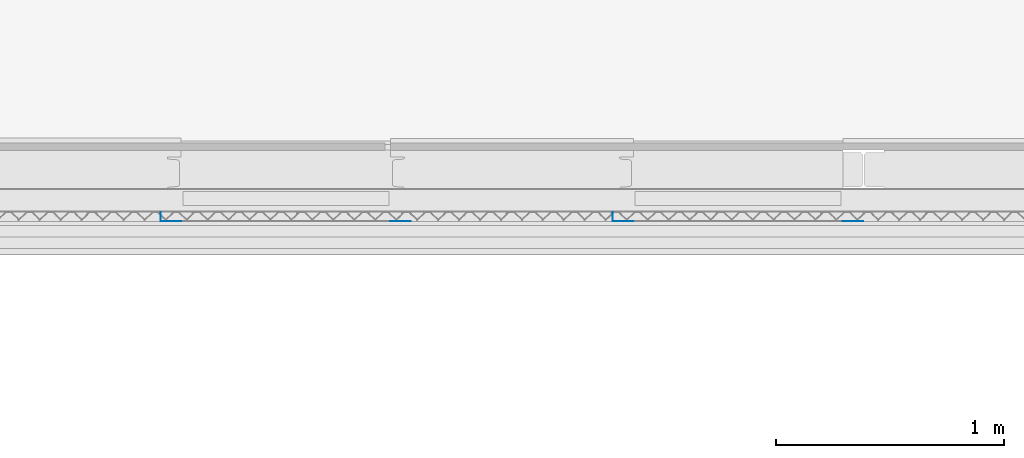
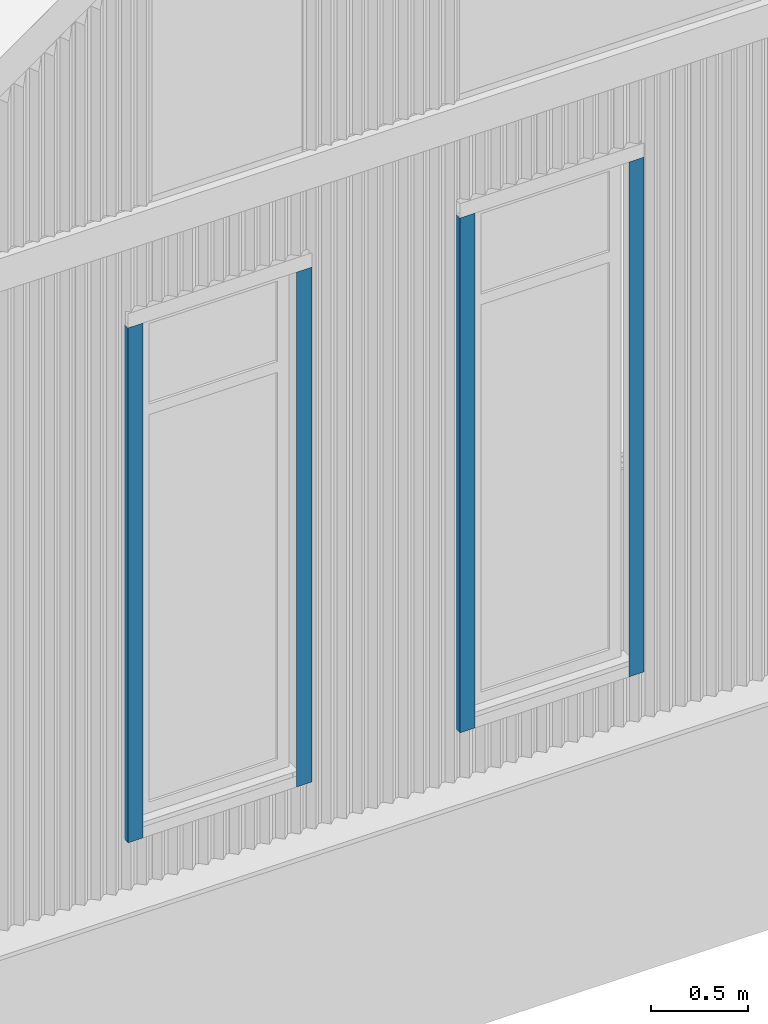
# One storey, part 32 of 338: 4 columns.
"""IFC2X3 building model written with IfcOpenShell, lengths in millimetres."""

from ifc_helpers import new_model, entity, si_unit, converted_unit, derived_unit, money_unit, direction, frame, origin_with_axes, place, context, subcontext, project, spatial, faceted_brep, material, type_object, element, save


model = new_model("IFC2X3")

# Units and contexts
model_context = context("Model", 3, precision=0.01, world=origin_with_axes(), true_north=direction((0.0, 1.0)))
plan_context = context("Plan", 3, precision=0.01, world=origin_with_axes(), true_north=direction((0.0, 1.0)))
body_context = subcontext(model_context, "Body", "Model", "MODEL_VIEW")
ifc_project = project(units=[si_unit("LENGTHUNIT", "METRE", prefix="MILLI"), si_unit("AREAUNIT", "SQUARE_METRE"), si_unit("VOLUMEUNIT", "CUBIC_METRE"), converted_unit("PLANEANGLEUNIT", "DEGREE", entity("IfcPlaneAngleMeasure", 0.0174532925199), si_unit("PLANEANGLEUNIT", "RADIAN"), dimensions=[0, 0, 0, 0, 0, 0, 0]), money_unit("EUR"), converted_unit("TIMEUNIT", "Year", entity("IfcTimeMeasure", 31556926.0), si_unit("TIMEUNIT", "SECOND"), dimensions=[0, 0, 1, 0, 0, 0, 0]), si_unit("MASSUNIT", "GRAM", prefix="KILO"), si_unit("THERMODYNAMICTEMPERATUREUNIT", "DEGREE_CELSIUS"), si_unit("LUMINOUSINTENSITYUNIT", "LUMEN"), si_unit("ENERGYUNIT", "JOULE", prefix="MEGA"), derived_unit("THERMALCONDUCTANCEUNIT", [(si_unit("POWERUNIT", "WATT"), 1), (si_unit("LENGTHUNIT", "METRE"), -1), (si_unit("THERMODYNAMICTEMPERATUREUNIT", "KELVIN"), -1)]), derived_unit("SPECIFICHEATCAPACITYUNIT", [(si_unit("ENERGYUNIT", "JOULE"), 1), (si_unit("MASSUNIT", "GRAM", prefix="KILO"), -1), (si_unit("THERMODYNAMICTEMPERATUREUNIT", "KELVIN"), -1)]), derived_unit("MASSDENSITYUNIT", [(si_unit("MASSUNIT", "GRAM", prefix="KILO"), 1), (si_unit("VOLUMEUNIT", "CUBIC_METRE"), -1)])], contexts=[model_context, plan_context])

# Site, building, storey
site_placement = place(None, origin_with_axes())
site = spatial("IfcSite", under=ifc_project, at=site_placement, Name="Fortuinstraat Woensdrecht", CompositionType="ELEMENT")
building_placement = place(site_placement, origin_with_axes())
building = spatial("IfcBuilding", under=site, at=building_placement, Name="IKC Fortuna", CompositionType="ELEMENT")
storey_placement = place(building_placement, origin_with_axes())
storey = spatial("IfcBuildingStorey", under=building, at=storey_placement, Name="00 begane grond", CompositionType="ELEMENT", Elevation=0.0)

# Columns
ifc_material = material(Name="Metaal - Aluminium")
column_type = type_object("IfcColumnType", Name="41 Zetwerk SW 115 x 74", PredefinedType="COLUMN")
column_1_placement = place(storey_placement, frame((47018.4270571, 20910.2966282, 1310.63097708), z_axis=(0.0, 0.0, 1.0), x_axis=(1.0, 0.0, 0.0)))
element("IfcColumn", 1, at=column_1_placement, inside=storey, type_object=column_type, material=ifc_material, Name="28_Kolom_omtimmering kolom", ObjectType="COLUMN", context=body_context, shape_type="Brep", body=[
    faceted_brep([(115.0, -56.0, 0.0), (115.0, -55.955706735, 0.0), (115.0, -55.955706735, 3254.36978966), (115.0, -56.0, 3254.36978966), (25.0, -56.0, 0.0), (25.0, -55.955706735, 0.0), (25.0, -55.955706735, 3254.36978966), (25.0, -56.0, 3254.36978966)], [[[0, 1, 2, 3]], [[4, 5, 1, 0]], [[5, 6, 2, 1]], [[3, 2, 6, 7]], [[3, 7, 4, 0]], [[7, 6, 5, 4]]]),
])
column_2_placement = place(storey_placement, frame((46148.4270571, 20910.2966282, 1310.63097708), z_axis=(0.0, 0.0, 1.0), x_axis=(1.0, 0.0, 0.0)))
element("IfcColumn", 2, at=column_2_placement, inside=storey, type_object=column_type, material=ifc_material, Name="28_Kolom_omtimmering kolom", ObjectType="COLUMN", context=body_context, shape_type="Brep", body=[
    faceted_brep([(-25.0, -56.0, 0.0), (-25.0, -55.9557067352, 0.0), (-25.0, -55.9557067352, 3254.36978966), (-25.0, -56.0, 3254.36978966), (-114.669633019, -15.0, 0.0), (-114.669633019, -55.9557067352, 0.0), (-115.0, -56.0, 0.0), (-115.0, -15.0, 0.0), (-114.669633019, -55.9557067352, 3254.36978966), (-114.669633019, -15.0, 3254.36978966), (-115.0, -15.0, 3254.36978966), (-115.0, -56.0, 3254.36978966)], [[[0, 1, 2, 3]], [[4, 5, 1, 0, 6, 7]], [[5, 8, 2, 1]], [[2, 8, 9, 10, 11, 3]], [[3, 11, 6, 0]], [[5, 4, 9, 8]], [[11, 10, 7, 6]], [[10, 9, 4, 7]]]),
])
column_3_placement = place(storey_placement, frame((45032.4270571, 20910.2966282, 1310.63097708), z_axis=(0.0, 0.0, 1.0), x_axis=(1.0, 0.0, 0.0)))
element("IfcColumn", 3, at=column_3_placement, inside=storey, type_object=column_type, material=ifc_material, Name="28_Kolom_omtimmering kolom", ObjectType="COLUMN", context=body_context, shape_type="Brep", body=[
    faceted_brep([(115.0, -56.0, 0.0), (115.0, -55.955706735, -0.00729491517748), (115.0, -55.955706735, 3254.36978966), (115.0, -56.0, 3254.36978966), (25.0, -56.0, 0.0), (25.0, -55.955706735, -0.00729491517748), (25.0, -55.955706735, 3254.36978966), (25.0, -56.0, 3254.36978966)], [[[0, 1, 2, 3]], [[4, 5, 1, 0]], [[5, 6, 2, 1]], [[3, 2, 6, 7]], [[3, 7, 4, 0]], [[7, 6, 5, 4]]]),
])
column_4_placement = place(storey_placement, frame((44163.4613816, 20910.2966282, 1310.63097708), z_axis=(0.0, 0.0, 1.0), x_axis=(1.0, 0.0, 0.0)))
element("IfcColumn", 4, at=column_4_placement, inside=storey, type_object=column_type, material=ifc_material, Name="28_Kolom_omtimmering kolom", ObjectType="COLUMN", context=body_context, shape_type="Brep", body=[
    faceted_brep([(-25.0, -56.0, 0.0), (-25.0, -55.955706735, -0.00729491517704), (-25.0, -55.955706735, 3254.36978966), (-25.0, -56.0, 3254.36978966), (-114.703998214, -15.0, -0.00729491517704), (-114.703998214, -55.955706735, -0.00729491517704), (-115.0, -56.0, 0.0), (-115.0, -15.0, 0.0), (-114.703998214, -55.955706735, 3254.36978966), (-114.703998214, -15.0, 3254.36978966), (-115.0, -15.0, 3254.36978966), (-115.0, -56.0, 3254.36978966)], [[[0, 1, 2, 3]], [[4, 5, 1, 0, 6, 7]], [[5, 8, 2, 1]], [[2, 8, 9, 10, 11, 3]], [[3, 11, 6, 0]], [[5, 4, 9, 8]], [[11, 10, 7, 6]], [[10, 9, 4, 7]]]),
])

save(model, "model.ifc")
